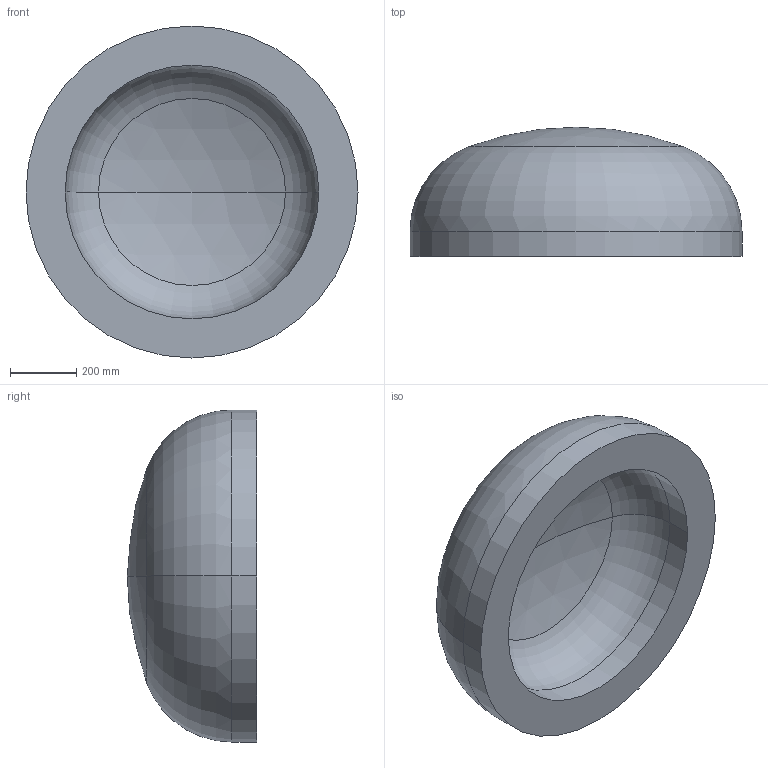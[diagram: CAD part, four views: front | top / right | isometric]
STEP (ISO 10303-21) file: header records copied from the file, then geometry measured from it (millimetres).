
FILE_DESCRIPTION (( 'STEP AP203' ), '1' );
FILE_NAME ('DIN 28013 Korbbogenform_-_Boden DIN 28013 - 1000 x 75 - I - s=118.step', '2016-07-01T08:58:30', ( '' ), ( '' ), 'SwSTEP 2.0', 'SolidWorks 2013', '' );
FILE_SCHEMA (( 'CONFIG_CONTROL_DESIGN' ));
Length unit declared in the file: millimetre
Products named in the file (1): DIN 28013 Korbbogenform_-_Boden DIN 28013 - 1000 x 75 - I - s=118
Bounding box: 1000 x 389.26 x 1000 mm (x, y, z)
Volume: 135785960.8 mm3; surface area: 2657583.4 mm2
Topology: 1 solids, 1 shells, 13 faces, 24 edges, 14 vertices
Faces by surface type: torus 4, cylinder 4, sphere 4, plane 1
Entity records: 407 total; most frequent: DIRECTION 72, CARTESIAN_POINT 52, ORIENTED_EDGE 48, AXIS2_PLACEMENT_3D 34, EDGE_CURVE 24, CIRCLE 20, EDGE_LOOP 14, VERTEX_POINT 14
